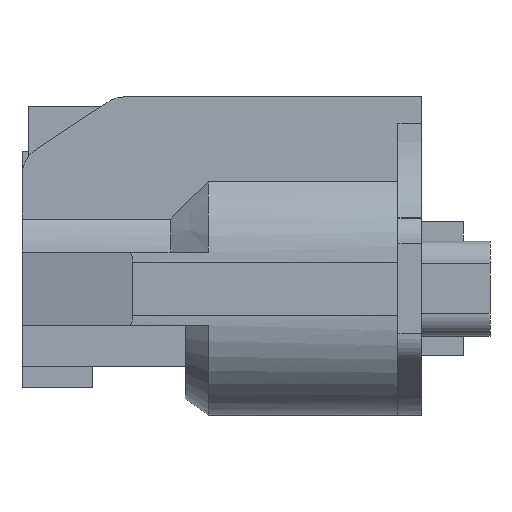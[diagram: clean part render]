
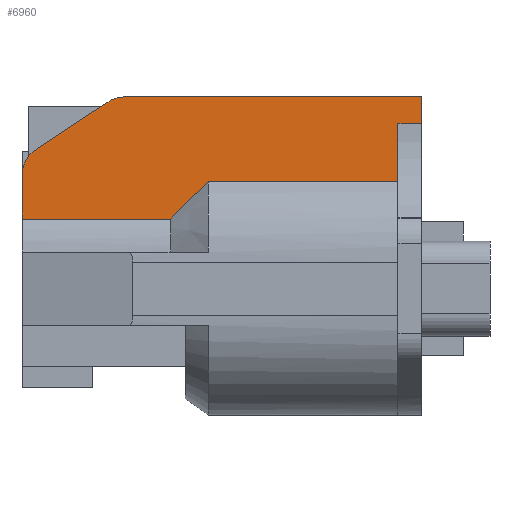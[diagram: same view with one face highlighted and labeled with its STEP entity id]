
A CAD part, front view. The second image highlights one B-rep face of the part: STEP entity #6960.
In plain terms, the highlighted planar face has unit normal (0, -1, 0).
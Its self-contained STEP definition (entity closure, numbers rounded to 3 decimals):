
#5985=AXIS2_PLACEMENT_3D('Circle Axis2P3D',#5983,#5984,$) ;
#6058=AXIS2_PLACEMENT_3D('Circle Axis2P3D',#6056,#6057,$) ;
#6933=AXIS2_PLACEMENT_3D('Plane Axis2P3D',#6930,#6931,#6932) ;
#5785=CARTESIAN_POINT('Vertex',(-30.,-8.,4.466)) ;
#5801=CARTESIAN_POINT('Vertex',(-20.478,-8.,4.466)) ;
#5804=CARTESIAN_POINT('Line Origine',(-25.741,-8.,4.466)) ;
#5827=CARTESIAN_POINT('Vertex',(-5.9,-8.,6.85)) ;
#5830=CARTESIAN_POINT('Line Origine',(-14.652,-8.,6.85)) ;
#5834=CARTESIAN_POINT('Vertex',(-18.05,-8.,6.85)) ;
#5857=CARTESIAN_POINT('Control Point',(-20.478,-8.,4.466)) ;
#5858=CARTESIAN_POINT('Control Point',(-20.102,-8.,4.913)) ;
#5859=CARTESIAN_POINT('Control Point',(-19.614,-8.,5.429)) ;
#5860=CARTESIAN_POINT('Control Point',(-18.985,-8.,6.036)) ;
#5861=CARTESIAN_POINT('Control Point',(-18.05,-8.,6.85)) ;
#5917=CARTESIAN_POINT('Vertex',(-5.9,-8.,10.565)) ;
#5920=CARTESIAN_POINT('Line Origine',(-5.9,-8.,8.707)) ;
#5983=CARTESIAN_POINT('Axis2P3D Location',(-23.401,-8.,10.3)) ;
#5987=CARTESIAN_POINT('Vertex',(-24.501,-8.,11.97)) ;
#5989=CARTESIAN_POINT('Vertex',(-23.401,-8.,12.3)) ;
#6030=CARTESIAN_POINT('Vertex',(-29.1,-8.,8.943)) ;
#6033=CARTESIAN_POINT('Line Origine',(-26.8,-8.,10.457)) ;
#6056=CARTESIAN_POINT('Axis2P3D Location',(-28.,-8.,7.272)) ;
#6060=CARTESIAN_POINT('Vertex',(-30.,-8.,7.272)) ;
#6506=CARTESIAN_POINT('Line Origine',(-30.,-8.,5.869)) ;
#6907=CARTESIAN_POINT('Line Origine',(-13.9,-8.,12.3)) ;
#6911=CARTESIAN_POINT('Vertex',(-4.4,-8.,12.3)) ;
#6930=CARTESIAN_POINT('Axis2P3D Location',(-3.9,-8.,12.1)) ;
#6935=CARTESIAN_POINT('Line Origine',(-5.15,-8.,10.565)) ;
#6939=CARTESIAN_POINT('Vertex',(-4.4,-8.,10.565)) ;
#6942=CARTESIAN_POINT('Line Origine',(-4.4,-8.,11.432)) ;
#5805=DIRECTION('Vector Direction',(-1.,0.,0.)) ;
#5831=DIRECTION('Vector Direction',(-1.,0.,0.)) ;
#5921=DIRECTION('Vector Direction',(0.,0.,1.)) ;
#5984=DIRECTION('Axis2P3D Direction',(0.,-1.,0.)) ;
#6034=DIRECTION('Vector Direction',(-0.835,0.,-0.55)) ;
#6057=DIRECTION('Axis2P3D Direction',(-0.,-1.,0.)) ;
#6507=DIRECTION('Vector Direction',(0.,0.,-1.)) ;
#6908=DIRECTION('Vector Direction',(1.,0.,0.)) ;
#6931=DIRECTION('Axis2P3D Direction',(0.,1.,0.)) ;
#6932=DIRECTION('Axis2P3D XDirection',(0.,0.,-1.)) ;
#6936=DIRECTION('Vector Direction',(-1.,0.,0.)) ;
#6943=DIRECTION('Vector Direction',(0.,0.,-1.)) ;
#5806=VECTOR('Line Direction',#5805,1.) ;
#5832=VECTOR('Line Direction',#5831,1.) ;
#5922=VECTOR('Line Direction',#5921,1.) ;
#6035=VECTOR('Line Direction',#6034,1.) ;
#6508=VECTOR('Line Direction',#6507,1.) ;
#6909=VECTOR('Line Direction',#6908,1.) ;
#6937=VECTOR('Line Direction',#6936,1.) ;
#6944=VECTOR('Line Direction',#6943,1.) ;
#6948=ORIENTED_EDGE('',*,*,#6510,.T.) ;
#6949=ORIENTED_EDGE('',*,*,#5808,.F.) ;
#6950=ORIENTED_EDGE('',*,*,#5862,.T.) ;
#6951=ORIENTED_EDGE('',*,*,#5836,.T.) ;
#6952=ORIENTED_EDGE('',*,*,#5924,.T.) ;
#6953=ORIENTED_EDGE('',*,*,#6941,.F.) ;
#6954=ORIENTED_EDGE('',*,*,#6946,.F.) ;
#6955=ORIENTED_EDGE('',*,*,#6913,.F.) ;
#6956=ORIENTED_EDGE('',*,*,#5991,.F.) ;
#6957=ORIENTED_EDGE('',*,*,#6037,.T.) ;
#6958=ORIENTED_EDGE('',*,*,#6062,.F.) ;
#6960=ADVANCED_FACE('OLD CPA',(#6959),#6934,.F.) ;
#5856=B_SPLINE_CURVE_WITH_KNOTS('',4,(#5857,#5858,#5859,#5860,#5861),.UNSPECIFIED.,.F.,.U.,(5,5),(126.097,157.04),.UNSPECIFIED.) ;
#5986=CIRCLE('generated circle',#5985,2.) ;
#6059=CIRCLE('generated circle',#6058,2.) ;
#5808=EDGE_CURVE('',#5802,#5786,#5807,.T.) ;
#5836=EDGE_CURVE('',#5835,#5828,#5833,.F.) ;
#5862=EDGE_CURVE('',#5802,#5835,#5856,.T.) ;
#5924=EDGE_CURVE('',#5828,#5918,#5923,.T.) ;
#5991=EDGE_CURVE('',#5988,#5990,#5986,.F.) ;
#6037=EDGE_CURVE('',#5988,#6031,#6036,.T.) ;
#6062=EDGE_CURVE('',#6061,#6031,#6059,.F.) ;
#6510=EDGE_CURVE('',#6061,#5786,#6509,.T.) ;
#6913=EDGE_CURVE('',#5990,#6912,#6910,.T.) ;
#6941=EDGE_CURVE('',#6940,#5918,#6938,.T.) ;
#6946=EDGE_CURVE('',#6912,#6940,#6945,.T.) ;
#6947=EDGE_LOOP('',(#6948,#6949,#6950,#6951,#6952,#6953,#6954,#6955,#6956,#6957,#6958)) ;
#6959=FACE_OUTER_BOUND('',#6947,.T.) ;
#5807=LINE('Line',#5804,#5806) ;
#5833=LINE('Line',#5830,#5832) ;
#5923=LINE('Line',#5920,#5922) ;
#6036=LINE('Line',#6033,#6035) ;
#6509=LINE('Line',#6506,#6508) ;
#6910=LINE('Line',#6907,#6909) ;
#6938=LINE('Line',#6935,#6937) ;
#6945=LINE('Line',#6942,#6944) ;
#6934=PLANE('',#6933) ;
#5786=VERTEX_POINT('',#5785) ;
#5802=VERTEX_POINT('',#5801) ;
#5828=VERTEX_POINT('',#5827) ;
#5835=VERTEX_POINT('',#5834) ;
#5918=VERTEX_POINT('',#5917) ;
#5988=VERTEX_POINT('',#5987) ;
#5990=VERTEX_POINT('',#5989) ;
#6031=VERTEX_POINT('',#6030) ;
#6061=VERTEX_POINT('',#6060) ;
#6912=VERTEX_POINT('',#6911) ;
#6940=VERTEX_POINT('',#6939) ;
